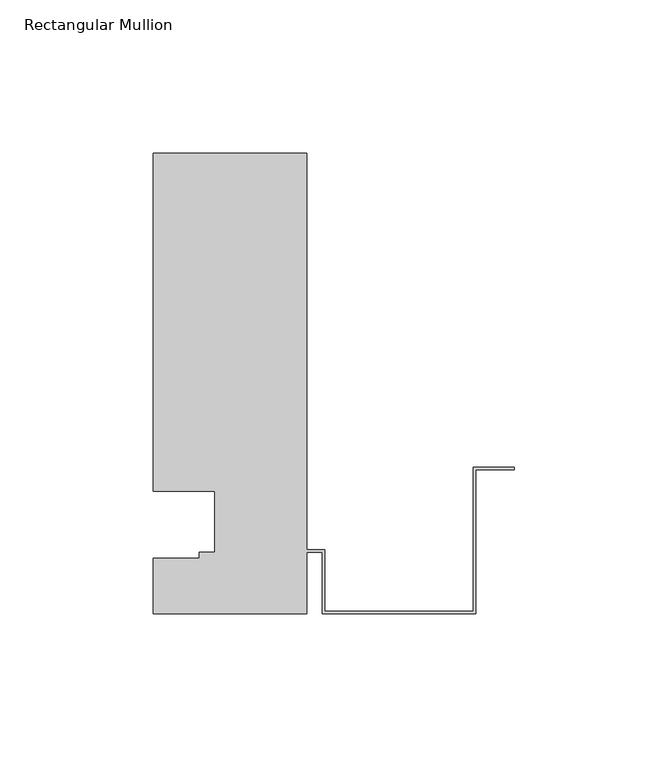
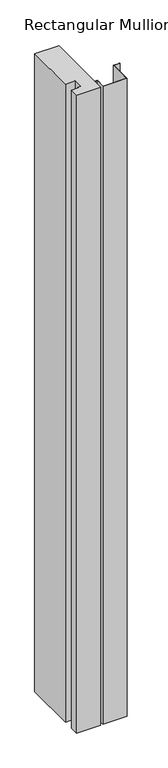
"""IFC4 building model written with IfcOpenShell, lengths in millimetres: member geometry, Rectangular Mullion : TR_CW_ALU_border_TR."""

from ifc_helpers import new_model, si_unit, frame, origin, place, context, project, spatial, polyline, outline, extrude, source, transform, mapped, element, save


def rectangular_mullion_08f30394(model_context):
    return source(origin(), model_context, "Body", "SweptSolid", [
        extrude(outline(polyline([(-117.5, 0.0), (-117.5, 18.0204111), (-102.5, 18.0204111), (-102.5, 20.0), (-97.5, 20.0), (-97.5, 40.0), (-117.5, 40.0), (-117.5, 150.0), (-67.5, 150.0), (-67.5, 20.8), (-61.7, 20.8), (-61.7, 0.8), (-13.3, 0.8), (-13.3, 47.8), (0.0, 47.8), (0.0, 47.0), (-12.5, 47.0), (-12.5, 0.0), (-62.5, 0.0), (-62.5, 20.0), (-67.5, 20.0), (-67.5, 0.0), (-117.5, 0.0)])), frame((0.0, 0.0, -1399.0), z_axis=(0.0, 0.0, 1.0), x_axis=(1.0, 0.0, 0.0)), (0.0, 0.0, 1.0), 1399.0),
    ])


if __name__ == "__main__":
    model = new_model("IFC4")
    model_context = context("Model", 3, world=origin())
    ifc_project = project(units=[si_unit("LENGTHUNIT", "METRE", prefix="MILLI")], contexts=[model_context])
    site = spatial("IfcSite", under=ifc_project)
    building = spatial("IfcBuilding", under=site)
    placement = place(None, origin())
    rectangular_mullion_shape = rectangular_mullion_08f30394(model_context)
    element("IfcMember", 1, ObjectType="Rectangular Mullion : TR_CW_ALU_border_TR", at=placement, inside=building, context=model_context, shape_type="MappedRepresentation", body=[
        mapped(rectangular_mullion_shape, transform((0.0, 0.0, 0.0), x_axis=(1.0, 0.0, 0.0), y_axis=(0.0, 1.0, 0.0), z_axis=(0.0, 0.0, 1.0))),
    ])
    save(model, "model.ifc")
